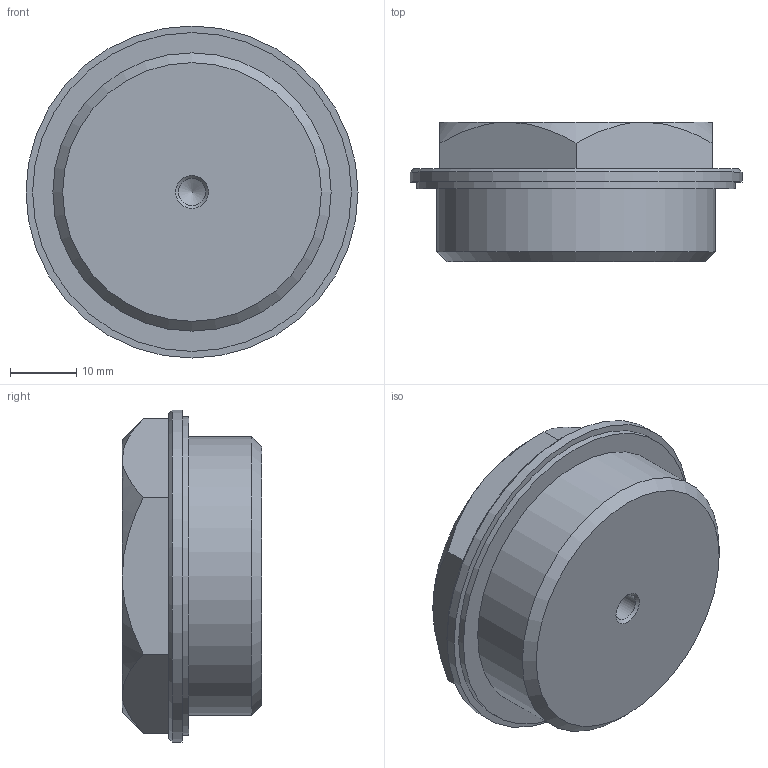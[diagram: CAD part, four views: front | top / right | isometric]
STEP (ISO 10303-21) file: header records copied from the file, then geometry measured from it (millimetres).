
FILE_DESCRIPTION( ( 'STEP AP203' ), '1' );
FILE_NAME( 'C:/Temp/Ganter_Step_05_03_2020/data/3_5/gn742/gn742_1/Threaded plug GN 742-50-G11_4-OSS-1.stp', '2020-03-12T13:39:18', ( 'License CC BY-ND 4.0' ), ( 'CADENAS' ), ' ', 'PARTsolutions', ' ' );
FILE_SCHEMA( ( 'CONFIG_CONTROL_DESIGN' ) );
Length unit declared in the file: millimetre
Products named in the file (1): _Threaded plug GN 742-50-G11/4-OSS-1
Bounding box: 50 x 21 x 50 mm (x, y, z)
Volume: 30590.6 mm3; surface area: 6779.7 mm2
Topology: 1 solids, 1 shells, 25 faces, 50 edges, 30 vertices
Faces by surface type: plane 11, cone 10, cylinder 4
Full cylindrical faces by diameter (mm): 4.134 x1, 41.91 x1, 48 x1, 50 x1
Entity records: 708 total; most frequent: CARTESIAN_POINT 189, DIRECTION 98, ORIENTED_EDGE 82, AXIS2_PLACEMENT_3D 43, EDGE_CURVE 41, EDGE_LOOP 36, VERTEX_POINT 30, FACE_OUTER_BOUND 29
